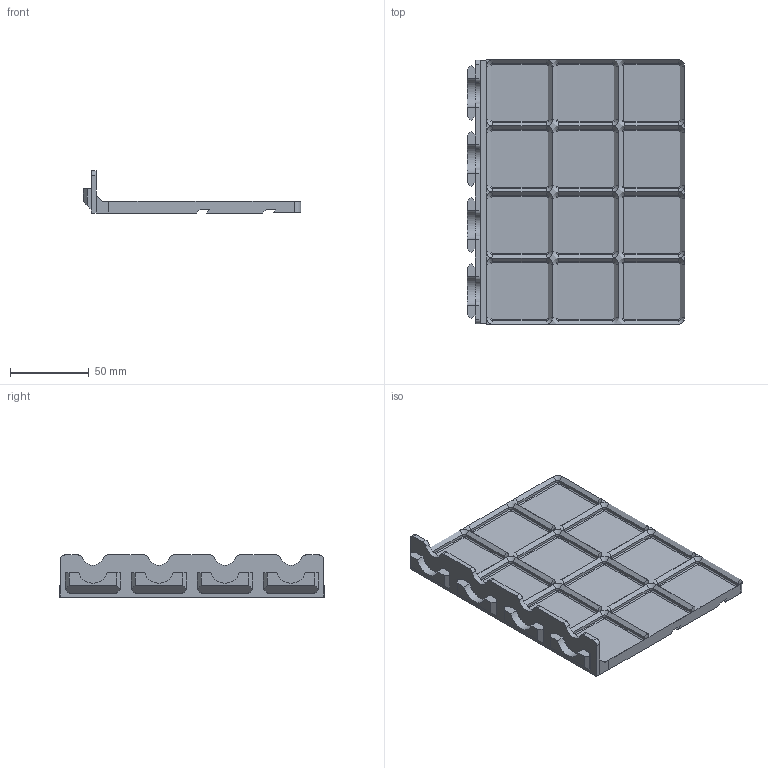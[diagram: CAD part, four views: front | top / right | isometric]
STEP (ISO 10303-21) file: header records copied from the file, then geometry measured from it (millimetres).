
FILE_DESCRIPTION(/* description */ ('','CAx-IF Rec.Pracs.---Representation and Presentation of Product Manufacturing Information (PMI)---4.0---2014-10-13'),/* implementation_level */ '2;1');
FILE_NAME(/* name */ 'Goews Quad Hanger Gridfinity 3x4 Base.step',/* time_stamp */ '2024-12-14T22:41:29-05:00',/* author */ (''),/* organization */ (''),/* preprocessor_version */ 'ST-DEVELOPER v20',/* originating_system */ 'Autodesk Translation Framework v13.20.0.188',/* authorisation */ '');
FILE_SCHEMA (('AP242_MANAGED_MODEL_BASED_3D_ENGINEERING_MIM_LF { 1 0 10303 442 1 1 4 }'));
Length unit declared in the file: millimetre
Products named in the file (2): Goews Quad Hanger Gridfinity 3x4 Base; Component2
Assembly tree (1 placements, depth 2):
  Goews Quad Hanger Gridfinity 3x4 Base
    Component2
Bounding box: 138.15 x 168 x 26.72 mm (x, y, z)
Volume: 92736.6 mm3; surface area: 63485.7 mm2
Topology: 1 solids, 1 shells, 456 faces, 1010 edges, 560 vertices
Faces by surface type: plane 246, cylinder 114, cone 96
Entity records: 12185 total; most frequent: DIRECTION 2206, CARTESIAN_POINT 2029, ORIENTED_EDGE 2020, EDGE_CURVE 1010, AXIS2_PLACEMENT_3D 737, LINE 732, VECTOR 732, VERTEX_POINT 560
